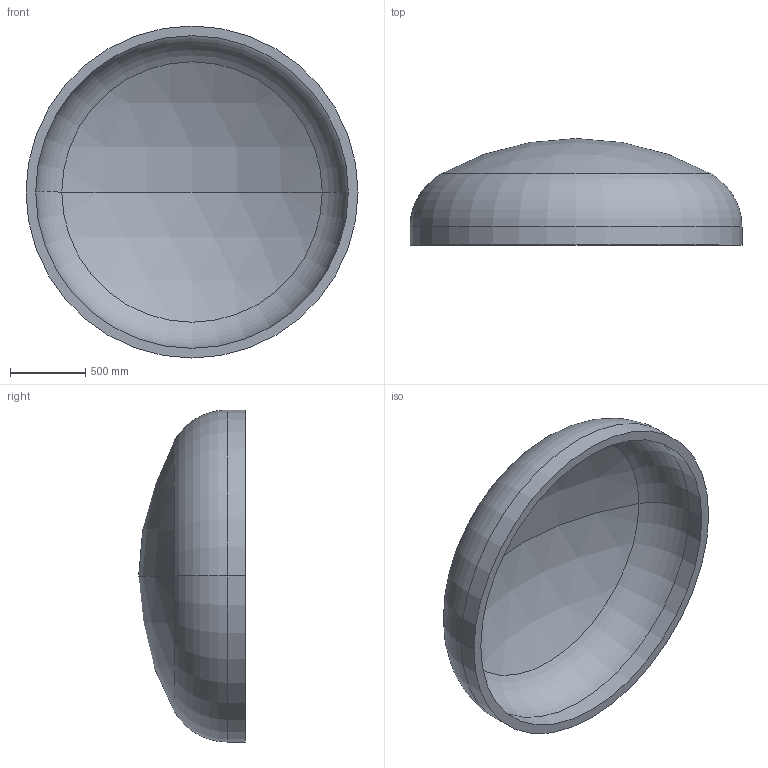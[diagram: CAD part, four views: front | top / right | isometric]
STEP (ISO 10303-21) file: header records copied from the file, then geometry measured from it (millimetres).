
FILE_DESCRIPTION (( 'STEP AP203' ), '1' );
FILE_NAME ('DIN 28013 Korbbogenform_-_Boden DIN 28013 - 2200 x 120 - I - s=64.step', '2016-07-01T14:44:18', ( '' ), ( '' ), 'SwSTEP 2.0', 'SolidWorks 2013', '' );
FILE_SCHEMA (( 'CONFIG_CONTROL_DESIGN' ));
Length unit declared in the file: millimetre
Products named in the file (1): DIN 28013 Korbbogenform_-_Boden DIN 28013 - 2200 x 120 - I - s=64
Bounding box: 2200 x 706.27 x 2200 mm (x, y, z)
Volume: 376138564 mm3; surface area: 12192373.4 mm2
Topology: 1 solids, 1 shells, 13 faces, 24 edges, 14 vertices
Faces by surface type: torus 4, cylinder 4, sphere 4, plane 1
Entity records: 407 total; most frequent: DIRECTION 72, CARTESIAN_POINT 52, ORIENTED_EDGE 48, AXIS2_PLACEMENT_3D 34, EDGE_CURVE 24, CIRCLE 20, VERTEX_POINT 14, EDGE_LOOP 14
